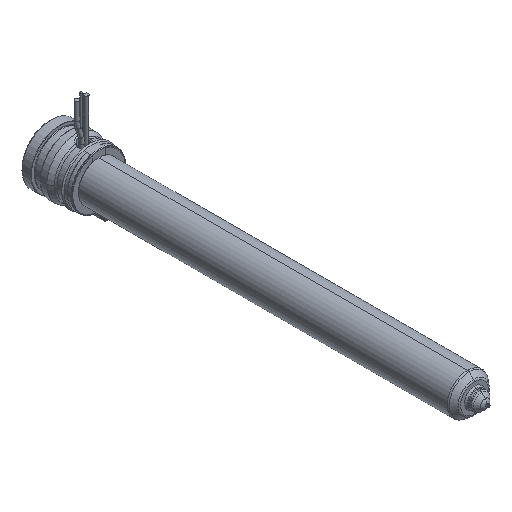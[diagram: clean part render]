
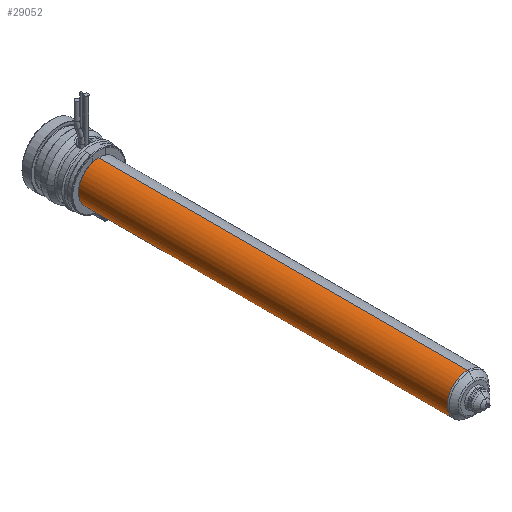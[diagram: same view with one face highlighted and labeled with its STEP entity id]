
A CAD part, isometric view. The second image highlights one B-rep face of the part: STEP entity #29052.
In plain terms, the highlighted cylindrical face has radius 9 mm (diameter 18 mm), a partial arc.
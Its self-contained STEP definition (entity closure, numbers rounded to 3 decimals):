
#28443=CARTESIAN_POINT('',(0.,-185.836,0.));
#28444=DIRECTION('',(0.,-1.,0.));
#28445=DIRECTION('',(0.,0.,1.));
#28446=AXIS2_PLACEMENT_3D('',#28443,#28444,#28445);
#28451=CARTESIAN_POINT('',(0.,-22.,0.));
#28452=DIRECTION('',(0.,-1.,0.));
#28453=DIRECTION('',(0.,0.,1.));
#28454=AXIS2_PLACEMENT_3D('',#28451,#28452,#28453);
#28459=DIRECTION('',(0.,-1.,0.));
#28460=VECTOR('',#28459,163.836);
#28461=CARTESIAN_POINT('',(0.,-22.,9.));
#28462=LINE('',#28461,#28460);
#28474=DIRECTION('',(0.,-1.,0.));
#28475=VECTOR('',#28474,163.836);
#28476=CARTESIAN_POINT('',(0.,-22.,-9.));
#28477=LINE('',#28476,#28475);
#28669=CARTESIAN_POINT('',(0.,-22.,9.));
#28670=CARTESIAN_POINT('',(0.,-185.836,9.));
#28671=VERTEX_POINT('',#28669);
#28672=VERTEX_POINT('',#28670);
#28695=CARTESIAN_POINT('',(0.,-22.,-9.));
#28696=CARTESIAN_POINT('',(0.,-185.836,-9.));
#28697=VERTEX_POINT('',#28695);
#28698=VERTEX_POINT('',#28696);
#29038=CARTESIAN_POINT('',(0.,-9.125,0.));
#29039=DIRECTION('',(0.,-1.,0.));
#29040=DIRECTION('',(0.,0.,1.));
#29041=AXIS2_PLACEMENT_3D('',#29038,#29039,#29040);
#29042=CYLINDRICAL_SURFACE('',#29041,9.);
#29044=ORIENTED_EDGE('',*,*,#29043,.T.);
#29045=ORIENTED_EDGE('',*,*,#29033,.T.);
#29047=ORIENTED_EDGE('',*,*,#29046,.F.);
#29049=ORIENTED_EDGE('',*,*,#29048,.F.);
#29050=EDGE_LOOP('',(#29044,#29045,#29047,#29049));
#29051=FACE_OUTER_BOUND('',#29050,.F.);
#29052=ADVANCED_FACE('',(#29051),#29042,.T.);
#28447=CIRCLE('',#28446,9.);
#28455=CIRCLE('',#28454,9.);
#29033=EDGE_CURVE('',#28672,#28698,#28447,.T.);
#29043=EDGE_CURVE('',#28671,#28672,#28462,.T.);
#29046=EDGE_CURVE('',#28697,#28698,#28477,.T.);
#29048=EDGE_CURVE('',#28671,#28697,#28455,.T.);
